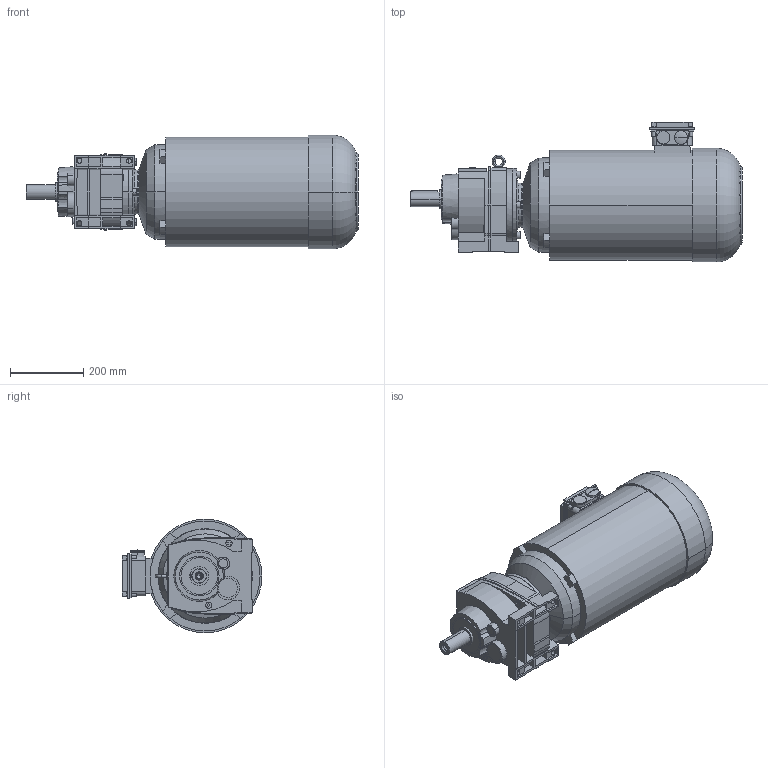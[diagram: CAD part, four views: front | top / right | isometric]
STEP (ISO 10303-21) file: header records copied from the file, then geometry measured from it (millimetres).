
FILE_DESCRIPTION(('STEP AP214'),'1');
FILE_NAME('STEP-File.stp','2018-01-01T00:00:00',(' '),('KEB'),' ','KEB-DRIVE',' ');
FILE_SCHEMA(('AUTOMOTIVE_DESIGN { 1 0 10303 214 1 1 1 1 }'));
Length unit declared in the file: millimetre
Products named in the file (9): g4a; w4_we_40x80; cs4; dm160_kkn; kk10; PLUG_M32; SCREW-PLUG_M32; ndm160; G42A DM160MB4§CAD13
Assembly tree (8 placements, depth 2):
  G42A DM160MB4§CAD13
    g4a
    w4_we_40x80
    cs4
    dm160_kkn
    kk10
    PLUG_M32
    SCREW-PLUG_M32
    ndm160
Bounding box: 905.99 x 381.6 x 310 mm (x, y, z)
Volume: 48179608 mm3; surface area: 1340013.3 mm2
Topology: 8 solids, 8 shells, 388 faces, 1000 edges, 658 vertices
Faces by surface type: plane 249, cylinder 92, cone 26, torus 17, bspline 2, revolution 2
Entity records: 14120 total; most frequent: CARTESIAN_POINT 4674, ORIENTED_EDGE 1996, DIRECTION 1754, EDGE_CURVE 998, VECTOR 660, LINE 660, VERTEX_POINT 658, AXIS2_PLACEMENT_3D 546
